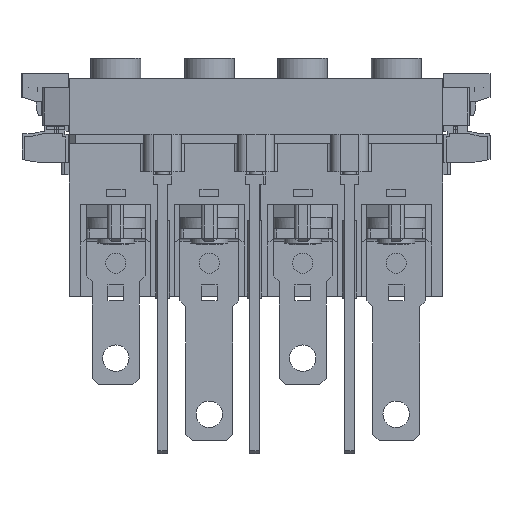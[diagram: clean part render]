
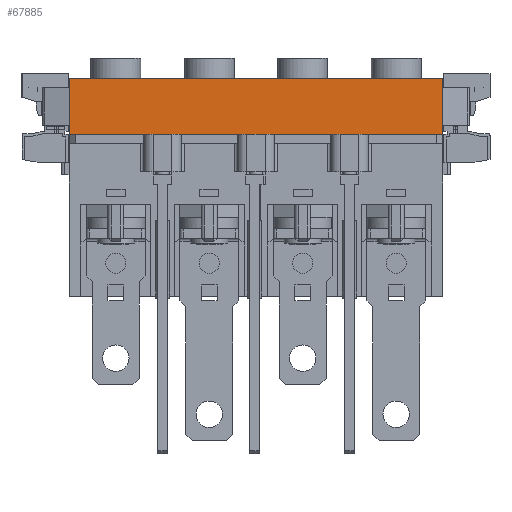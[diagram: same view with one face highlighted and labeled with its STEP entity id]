
A CAD part, front view. The second image highlights one B-rep face of the part: STEP entity #67885.
In plain terms, the highlighted planar face has unit normal (0, -1, 0).
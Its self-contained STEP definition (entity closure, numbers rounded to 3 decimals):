
#5313 = PLANE ( 'NONE',  #52478 ) ;
#10691 = LINE ( 'NONE', #90412, #16816 ) ;
#11586 = ORIENTED_EDGE ( 'NONE', *, *, #86596, .F. ) ;
#12325 = DIRECTION ( 'NONE',  ( 0., 0., -1. ) ) ;
#16816 = VECTOR ( 'NONE', #58188, 1000. ) ;
#17440 = VERTEX_POINT ( 'NONE', #66743 ) ;
#17529 = DIRECTION ( 'NONE',  ( 0., 1., 0. ) ) ;
#21623 = LINE ( 'NONE', #78278, #78361 ) ;
#25141 = DIRECTION ( 'NONE',  ( 0., 0., 1. ) ) ;
#25944 = DIRECTION ( 'NONE',  ( -1., 0., 0. ) ) ;
#27697 = VERTEX_POINT ( 'NONE', #77079 ) ;
#51622 = ORIENTED_EDGE ( 'NONE', *, *, #60922, .F. ) ;
#51897 = CARTESIAN_POINT ( 'NONE',  ( 118.113, -170.745, 17. ) ) ;
#51969 = LINE ( 'NONE', #64290, #66941 ) ;
#52478 = AXIS2_PLACEMENT_3D ( 'NONE', #94185, #17529, #25141 ) ;
#53985 = EDGE_CURVE ( 'NONE', #64946, #62482, #10691, .T. ) ;
#53987 = VECTOR ( 'NONE', #73345, 1000. ) ;
#54938 = CARTESIAN_POINT ( 'NONE',  ( -1.887, -170.745, 35. ) ) ;
#55282 = EDGE_LOOP ( 'NONE', ( #11586, #61783, #51622, #80575 ) ) ;
#58188 = DIRECTION ( 'NONE',  ( 0., 0., -1. ) ) ;
#60922 = EDGE_CURVE ( 'NONE', #27697, #64946, #61124, .T. ) ;
#61124 = LINE ( 'NONE', #54938, #53987 ) ;
#61783 = ORIENTED_EDGE ( 'NONE', *, *, #53985, .F. ) ;
#62482 = VERTEX_POINT ( 'NONE', #51897 ) ;
#64290 = CARTESIAN_POINT ( 'NONE',  ( 91.718, -170.745, 17. ) ) ;
#64946 = VERTEX_POINT ( 'NONE', #65827 ) ;
#65284 = EDGE_CURVE ( 'NONE', #27697, #17440, #21623, .T. ) ;
#65827 = CARTESIAN_POINT ( 'NONE',  ( 118.113, -170.745, 35. ) ) ;
#66743 = CARTESIAN_POINT ( 'NONE',  ( -1.887, -170.745, 17. ) ) ;
#66941 = VECTOR ( 'NONE', #25944, 1000. ) ;
#67885 = ADVANCED_FACE ( 'NONE', ( #84971 ), #5313, .F. ) ;
#73345 = DIRECTION ( 'NONE',  ( 1., 0., 0. ) ) ;
#77079 = CARTESIAN_POINT ( 'NONE',  ( -1.887, -170.745, 35. ) ) ;
#78278 = CARTESIAN_POINT ( 'NONE',  ( -1.887, -170.745, 35. ) ) ;
#78361 = VECTOR ( 'NONE', #12325, 1000. ) ;
#80575 = ORIENTED_EDGE ( 'NONE', *, *, #65284, .T. ) ;
#84971 = FACE_OUTER_BOUND ( 'NONE', #55282, .T. ) ;
#86596 = EDGE_CURVE ( 'NONE', #62482, #17440, #51969, .T. ) ;
#90412 = CARTESIAN_POINT ( 'NONE',  ( 118.113, -170.745, 35. ) ) ;
#94185 = CARTESIAN_POINT ( 'NONE',  ( -1.887, -170.745, 35. ) ) ;
